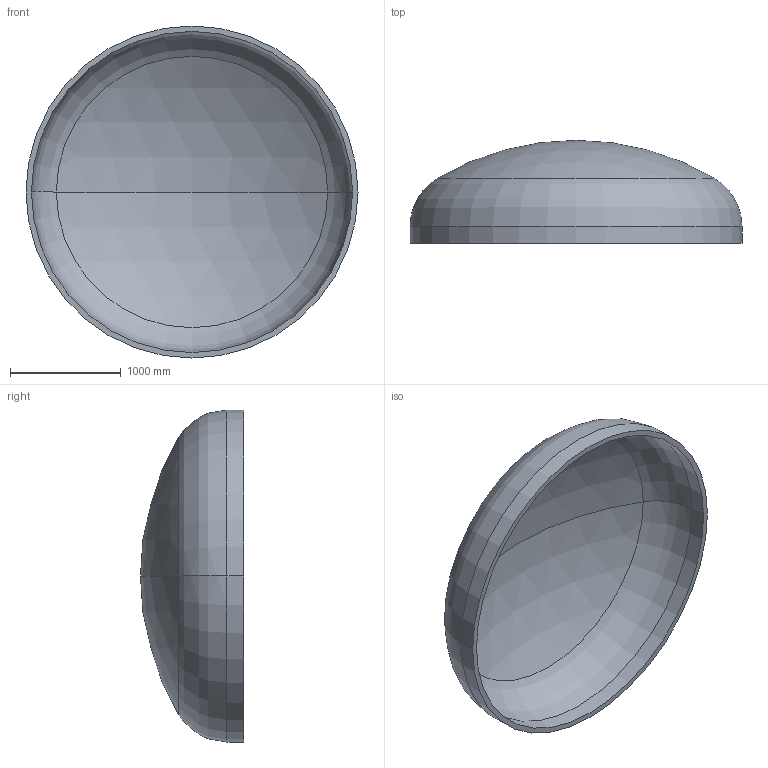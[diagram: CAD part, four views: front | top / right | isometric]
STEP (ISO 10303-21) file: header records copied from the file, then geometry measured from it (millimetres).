
FILE_DESCRIPTION (( 'STEP AP203' ), '1' );
FILE_NAME ('DIN 28013 Korbbogenform_-_Boden DIN 28013 - 3000 x 150 - I - s=49.step', '2016-07-01T17:51:21', ( '' ), ( '' ), 'SwSTEP 2.0', 'SolidWorks 2013', '' );
FILE_SCHEMA (( 'CONFIG_CONTROL_DESIGN' ));
Length unit declared in the file: millimetre
Products named in the file (1): DIN 28013 Korbbogenform_-_Boden DIN 28013 - 3000 x 150 - I - s=49
Bounding box: 3000 x 931.21 x 3000 mm (x, y, z)
Volume: 537214474.7 mm3; surface area: 22386413.8 mm2
Topology: 1 solids, 1 shells, 13 faces, 24 edges, 14 vertices
Faces by surface type: torus 4, cylinder 4, sphere 4, plane 1
Entity records: 407 total; most frequent: DIRECTION 72, CARTESIAN_POINT 52, ORIENTED_EDGE 48, AXIS2_PLACEMENT_3D 34, EDGE_CURVE 24, CIRCLE 20, EDGE_LOOP 14, VERTEX_POINT 14
